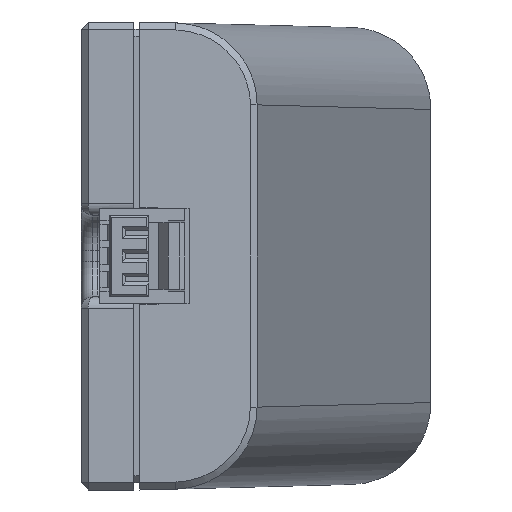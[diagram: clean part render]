
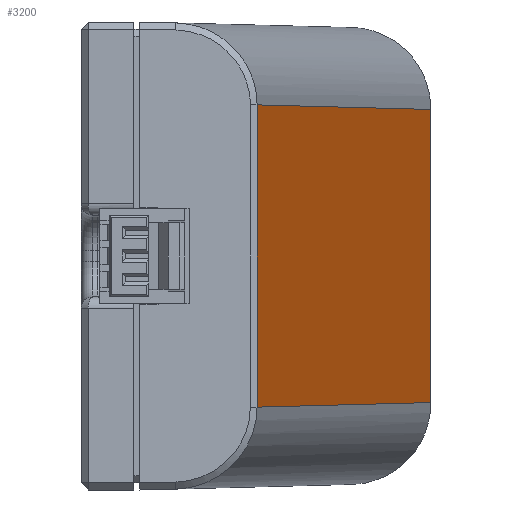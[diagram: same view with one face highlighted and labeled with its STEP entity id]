
A CAD part, left-side view. The second image highlights one B-rep face of the part: STEP entity #3200.
In plain terms, the highlighted planar face has unit normal (-0.174, -0.985, 0) as drawn and (-0.174, 0.985, 0) by its records, which use the part's own axes.
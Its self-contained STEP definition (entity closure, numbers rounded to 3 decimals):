
#658 = B_SPLINE_CURVE_WITH_KNOTS ( 'NONE', 3,
 ( #12292, #12559, #2021, #23185 ),
 .UNSPECIFIED., .F., .F.,
 ( 4, 4 ),
 ( 0., 1. ),
 .UNSPECIFIED. ) ;
#854 = CARTESIAN_POINT ( 'NONE',  ( -2.204, 12.5, 10. ) ) ;
#923 = CARTESIAN_POINT ( 'NONE',  ( -2.501, 12.448, 6.263 ) ) ;
#1079 = CARTESIAN_POINT ( 'NONE',  ( -44.627, 5.02, 6.458 ) ) ;
#2021 = CARTESIAN_POINT ( 'NONE',  ( -44.627, 5.02, 2.153 ) ) ;
#2450 = B_SPLINE_CURVE_WITH_KNOTS ( 'NONE', 3,
 ( #16828, #16958, #14888, #4370 ),
 .UNSPECIFIED., .F., .F.,
 ( 4, 4 ),
 ( 0., 1. ),
 .UNSPECIFIED. ) ;
#2793 = DIRECTION ( 'NONE',  ( 0., 0., -1. ) ) ;
#3200 = ADVANCED_FACE ( 'NONE', ( #23681 ), #22017, .F. ) ;
#3988 = EDGE_CURVE ( 'NONE', #16049, #25522, #16023, .T. ) ;
#4370 = CARTESIAN_POINT ( 'NONE',  ( -2.501, 12.448, -6.263 ) ) ;
#5041 = CARTESIAN_POINT ( 'NONE',  ( -16.543, 9.972, -6.328 ) ) ;
#5336 = B_SPLINE_CURVE_WITH_KNOTS ( 'NONE', 3,
 ( #5850, #24391, #16239, #5569 ),
 .UNSPECIFIED., .F., .F.,
 ( 4, 4 ),
 ( 0., 1. ),
 .UNSPECIFIED. ) ;
#5569 = CARTESIAN_POINT ( 'NONE',  ( -44.627, 5.02, 6.458 ) ) ;
#5850 = CARTESIAN_POINT ( 'NONE',  ( -2.501, 12.448, 6.263 ) ) ;
#6303 = ORIENTED_EDGE ( 'NONE', *, *, #26134, .T. ) ;
#8377 = VERTEX_POINT ( 'NONE', #923 ) ;
#8773 = EDGE_CURVE ( 'NONE', #8377, #25929, #5336, .T. ) ;
#9298 = DIRECTION ( 'NONE',  ( 0.174, -0.985, 0. ) ) ;
#12292 = CARTESIAN_POINT ( 'NONE',  ( -44.627, 5.02, -6.458 ) ) ;
#12559 = CARTESIAN_POINT ( 'NONE',  ( -44.627, 5.02, -2.153 ) ) ;
#12738 = AXIS2_PLACEMENT_3D ( 'NONE', #854, #9298, #2793 ) ;
#13327 = ORIENTED_EDGE ( 'NONE', *, *, #3988, .T. ) ;
#13491 = CARTESIAN_POINT ( 'NONE',  ( -44.627, 5.02, -6.458 ) ) ;
#13623 = CARTESIAN_POINT ( 'NONE',  ( -2.501, 12.448, -6.263 ) ) ;
#14888 = CARTESIAN_POINT ( 'NONE',  ( -2.501, 12.448, -2.088 ) ) ;
#15479 = ORIENTED_EDGE ( 'NONE', *, *, #8773, .F. ) ;
#15903 = ORIENTED_EDGE ( 'NONE', *, *, #19005, .T. ) ;
#15930 = CARTESIAN_POINT ( 'NONE',  ( -44.627, 5.02, -6.458 ) ) ;
#16023 = B_SPLINE_CURVE_WITH_KNOTS ( 'NONE', 3,
 ( #23989, #5041, #24261, #13491 ),
 .UNSPECIFIED., .F., .F.,
 ( 4, 4 ),
 ( 0., 1. ),
 .UNSPECIFIED. ) ;
#16049 = VERTEX_POINT ( 'NONE', #13623 ) ;
#16239 = CARTESIAN_POINT ( 'NONE',  ( -30.585, 7.496, 6.393 ) ) ;
#16828 = CARTESIAN_POINT ( 'NONE',  ( -2.501, 12.448, 6.263 ) ) ;
#16958 = CARTESIAN_POINT ( 'NONE',  ( -2.501, 12.448, 2.088 ) ) ;
#19005 = EDGE_CURVE ( 'NONE', #8377, #16049, #2450, .T. ) ;
#22017 = PLANE ( 'NONE',  #12738 ) ;
#22265 = EDGE_LOOP ( 'NONE', ( #13327, #6303, #15479, #15903 ) ) ;
#23185 = CARTESIAN_POINT ( 'NONE',  ( -44.627, 5.02, 6.458 ) ) ;
#23681 = FACE_OUTER_BOUND ( 'NONE', #22265, .T. ) ;
#23989 = CARTESIAN_POINT ( 'NONE',  ( -2.501, 12.448, -6.263 ) ) ;
#24261 = CARTESIAN_POINT ( 'NONE',  ( -30.585, 7.496, -6.393 ) ) ;
#24391 = CARTESIAN_POINT ( 'NONE',  ( -16.543, 9.972, 6.328 ) ) ;
#25522 = VERTEX_POINT ( 'NONE', #15930 ) ;
#25929 = VERTEX_POINT ( 'NONE', #1079 ) ;
#26134 = EDGE_CURVE ( 'NONE', #25522, #25929, #658, .T. ) ;
